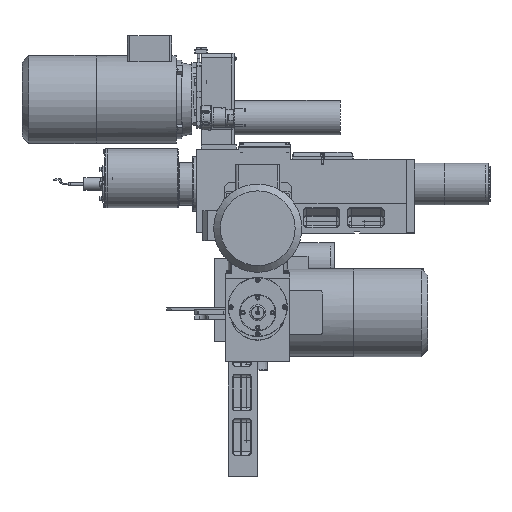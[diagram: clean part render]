
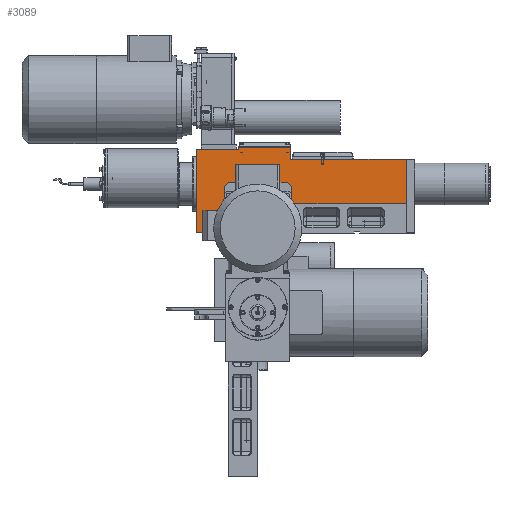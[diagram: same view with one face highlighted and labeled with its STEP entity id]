
A CAD part, front view. The second image highlights one B-rep face of the part: STEP entity #3089.
In plain terms, the highlighted planar face has unit normal (0, -1, 0).
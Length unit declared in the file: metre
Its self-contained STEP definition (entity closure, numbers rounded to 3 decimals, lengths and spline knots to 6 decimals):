
#3089 = ADVANCED_FACE( '', ( #4897 ), #4898, .T. );
#4897 = FACE_OUTER_BOUND( '', #9318, .T. );
#4898 = PLANE( '', #9319 );
#9318 = EDGE_LOOP( '', ( #15105, #15106, #15107, #15108, #15109, #15110, #15111, #15112, #15113, #15114 ) );
#9319 = AXIS2_PLACEMENT_3D( '', #15115, #15116, #15117 );
#15105 = ORIENTED_EDGE( '', *, *, #19792, .T. );
#15106 = ORIENTED_EDGE( '', *, *, #19793, .T. );
#15107 = ORIENTED_EDGE( '', *, *, #19794, .F. );
#15108 = ORIENTED_EDGE( '', *, *, #19795, .T. );
#15109 = ORIENTED_EDGE( '', *, *, #19796, .T. );
#15110 = ORIENTED_EDGE( '', *, *, #19797, .T. );
#15111 = ORIENTED_EDGE( '', *, *, #19798, .T. );
#15112 = ORIENTED_EDGE( '', *, *, #19799, .T. );
#15113 = ORIENTED_EDGE( '', *, *, #19800, .T. );
#15114 = ORIENTED_EDGE( '', *, *, #19801, .T. );
#15115 = CARTESIAN_POINT( '', ( 0.337, -0.003889, 0. ) );
#15116 = DIRECTION( '', ( 0., -1., 0. ) );
#15117 = DIRECTION( '', ( 1., 0., 0. ) );
#19792 = EDGE_CURVE( '', #22695, #22696, #22697, .T. );
#19793 = EDGE_CURVE( '', #22696, #22698, #22699, .T. );
#19794 = EDGE_CURVE( '', #22700, #22698, #22701, .T. );
#19795 = EDGE_CURVE( '', #22700, #22702, #22703, .T. );
#19796 = EDGE_CURVE( '', #22702, #22704, #22705, .T. );
#19797 = EDGE_CURVE( '', #22704, #22706, #22707, .T. );
#19798 = EDGE_CURVE( '', #22706, #22708, #22709, .T. );
#19799 = EDGE_CURVE( '', #22708, #22710, #22711, .T. );
#19800 = EDGE_CURVE( '', #22710, #22712, #22713, .T. );
#19801 = EDGE_CURVE( '', #22712, #22695, #22714, .T. );
#22695 = VERTEX_POINT( '', #28471 );
#22696 = VERTEX_POINT( '', #28472 );
#22697 = LINE( '', #28473, #28474 );
#22698 = VERTEX_POINT( '', #28475 );
#22699 = LINE( '', #28476, #28477 );
#22700 = VERTEX_POINT( '', #28478 );
#22701 = LINE( '', #28479, #28480 );
#22702 = VERTEX_POINT( '', #28481 );
#22703 = LINE( '', #28482, #28483 );
#22704 = VERTEX_POINT( '', #28484 );
#22705 = LINE( '', #28485, #28486 );
#22706 = VERTEX_POINT( '', #28487 );
#22707 = LINE( '', #28488, #28489 );
#22708 = VERTEX_POINT( '', #28490 );
#22709 = LINE( '', #28491, #28492 );
#22710 = VERTEX_POINT( '', #28493 );
#22711 = LINE( '', #28494, #28495 );
#22712 = VERTEX_POINT( '', #28496 );
#22713 = LINE( '', #28497, #28498 );
#22714 = LINE( '', #28499, #28500 );
#28471 = CARTESIAN_POINT( '', ( -0.003, -0.003889, 0.11 ) );
#28472 = CARTESIAN_POINT( '', ( -0.088, -0.003889, 0.11 ) );
#28473 = CARTESIAN_POINT( '', ( 0.14575, -0.003889, 0.11 ) );
#28474 = VECTOR( '', #32985, 1. );
#28475 = CARTESIAN_POINT( '', ( -0.088, -0.003889, -0.059 ) );
#28476 = CARTESIAN_POINT( '', ( -0.088, -0.003889, -0.059 ) );
#28477 = VECTOR( '', #32986, 1. );
#28478 = CARTESIAN_POINT( '', ( -0.005, -0.003889, -0.059 ) );
#28479 = CARTESIAN_POINT( '', ( -0.005, -0.003889, -0.059 ) );
#28480 = VECTOR( '', #32987, 1. );
#28481 = CARTESIAN_POINT( '', ( -0.005, -0.003889, 0. ) );
#28482 = CARTESIAN_POINT( '', ( -0.005, -0.003889, -0.059 ) );
#28483 = VECTOR( '', #32988, 1. );
#28484 = CARTESIAN_POINT( '', ( 0.337, -0.003889, 0. ) );
#28485 = CARTESIAN_POINT( '', ( -0.005, -0.003889, 0. ) );
#28486 = VECTOR( '', #32989, 1. );
#28487 = CARTESIAN_POINT( '', ( 0.337, -0.003889, 0.09 ) );
#28488 = CARTESIAN_POINT( '', ( 0.337, -0.003889, 0. ) );
#28489 = VECTOR( '', #32990, 1. );
#28490 = CARTESIAN_POINT( '', ( 0.102, -0.003889, 0.09 ) );
#28491 = CARTESIAN_POINT( '', ( -0.005, -0.003889, 0.09 ) );
#28492 = VECTOR( '', #32991, 1. );
#28493 = CARTESIAN_POINT( '', ( 0.102, -0.003889, 0.115 ) );
#28494 = CARTESIAN_POINT( '', ( 0.102, -0.003889, 0.09 ) );
#28495 = VECTOR( '', #32992, 1. );
#28496 = CARTESIAN_POINT( '', ( -0.003, -0.003889, 0.115 ) );
#28497 = CARTESIAN_POINT( '', ( -0.005, -0.003889, 0.115 ) );
#28498 = VECTOR( '', #32993, 1. );
#28499 = CARTESIAN_POINT( '', ( -0.003, -0.003889, 0.058735 ) );
#28500 = VECTOR( '', #32994, 1. );
#32985 = DIRECTION( '', ( -1., 0., 0. ) );
#32986 = DIRECTION( '', ( 0., 0., -1. ) );
#32987 = DIRECTION( '', ( -1., 0., 0. ) );
#32988 = DIRECTION( '', ( 0., 0., 1. ) );
#32989 = DIRECTION( '', ( 1., 0., 0. ) );
#32990 = DIRECTION( '', ( 0., 0., 1. ) );
#32991 = DIRECTION( '', ( -1., 0., 0. ) );
#32992 = DIRECTION( '', ( 0., 0., 1. ) );
#32993 = DIRECTION( '', ( -1., 0., 0. ) );
#32994 = DIRECTION( '', ( 0., 0., -1. ) );
